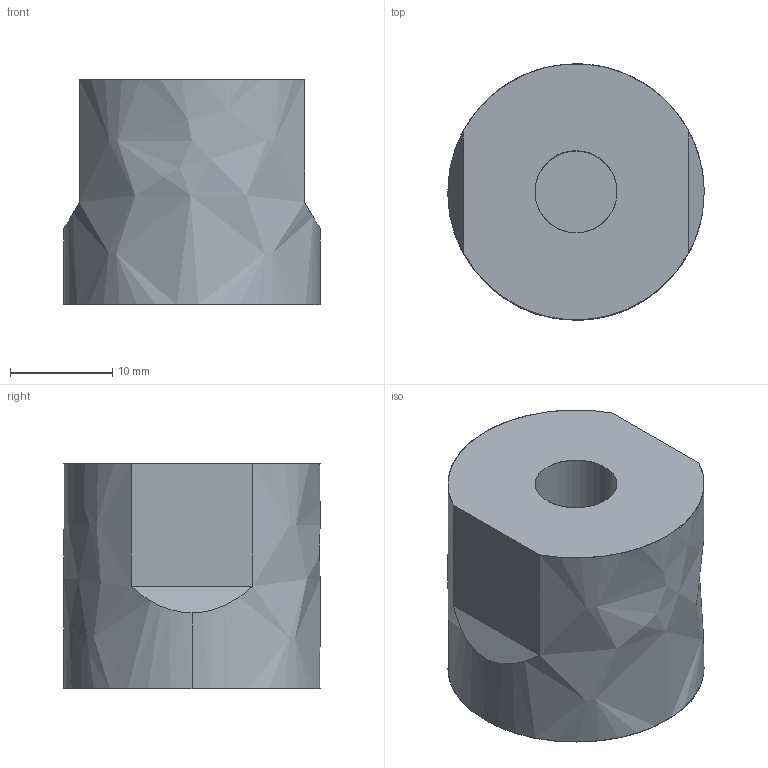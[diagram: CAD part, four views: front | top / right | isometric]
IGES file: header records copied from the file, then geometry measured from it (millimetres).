
Global section: file name: E:\UnigraphicsGraphicData\MISUMI_PRESS-PARTS\IGES\3d_sbvm25-22-r_00160_r00.igs; native system: NX V5.0; preprocessor: UGS NX IGES V5.0; author: MISUMI; date: 20110105.162511; units: millimetre
Bounding box: 25 x 25 x 22 mm (x, y, z)
Surface area: 3083.8 mm2 (no closed solid volume)
Topology: 0 solids, 0 shells, 11 faces, 72 edges, 72 vertices
Faces by surface type: bspline 11
